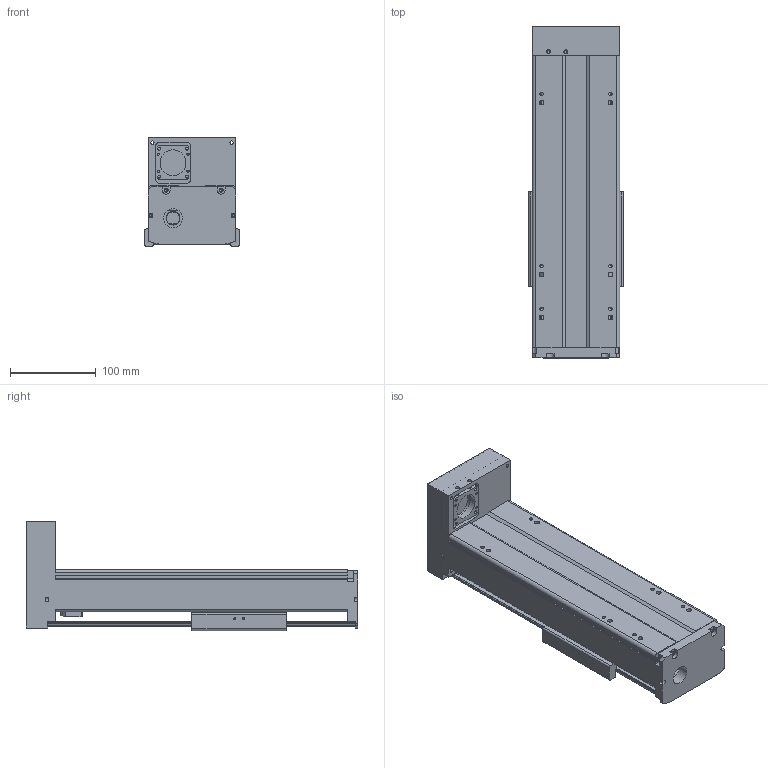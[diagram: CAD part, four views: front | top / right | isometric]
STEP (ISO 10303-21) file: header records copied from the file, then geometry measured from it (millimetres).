
FILE_DESCRIPTION(/* description */ (''),/* implementation_level */ '2;1');
FILE_NAME(/* name */ 'TKA100-FD-150_asm1.stp',/* time_stamp */ '2016-05-16T15:12:07+08:00',/* author */ (''),/* organization */ (''),/* preprocessor_version */ 'ST-DEVELOPER v15',/* originating_system */ 'SIEMENS PLM Software NX 8.5',/* authorisation */ '');
FILE_SCHEMA (('AUTOMOTIVE_DESIGN { 1 0 10303 214 3 1 1 1 }'));
Length unit declared in the file: millimetre
Products named in the file (3): 200-02; 200-01; TKA100-FD-150_asm1
Assembly tree (2 placements, depth 2):
  TKA100-FD-150_asm1
    200-01
    200-02
Bounding box: 110 x 386 x 127 mm (x, y, z)
Volume: 1071821.7 mm3; surface area: 375446.5 mm2
Topology: 2 solids, 8 shells, 759 faces, 1972 edges, 1278 vertices
Faces by surface type: cylinder 291, plane 289, cone 115, torus 38, bspline 26
Full cylindrical faces by diameter (mm): 2.5 x6, 2.6 x8, 3.3 x10, 3.4 x8, 3.8 x8, 4.2 x15, 4.3 x4, 4.5 x8, 5 x1, 5.5 x16, 6.6 x4, 8 x5, 9 x4, 10 x8, 11 x4, 12 x7, 15.3 x1, 16 x1, 22 x1, 24 x1, 28 x4, 30 x1, 33 x1
Entity records: 27660 total; most frequent: CARTESIAN_POINT 9929, DIRECTION 3692, ORIENTED_EDGE 3406, EDGE_CURVE 1703, AXIS2_PLACEMENT_3D 1463, VERTEX_POINT 1205, EDGE_LOOP 1066, LINE 766
